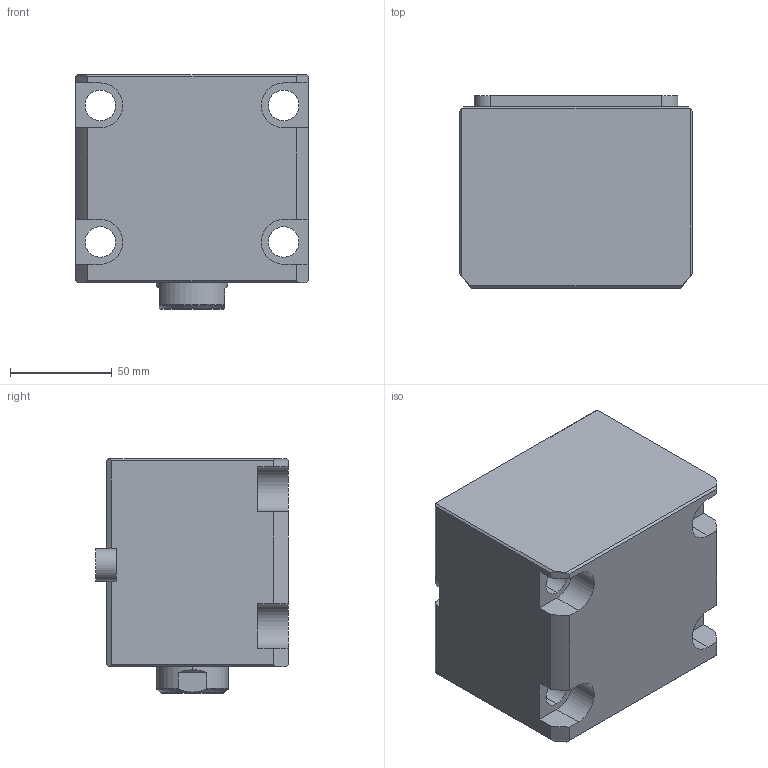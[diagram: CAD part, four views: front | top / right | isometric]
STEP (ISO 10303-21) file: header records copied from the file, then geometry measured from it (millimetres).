
FILE_DESCRIPTION (( 'STEP AP214' ), '1' );
FILE_NAME ('chtb-lam63x35n_asm.STEP', '2018-05-22T02:54:58', ( 'Windows' ), ( 'Microsoft' ), 'SwSTEP 2.0', 'SolidWorks 2015', '' );
FILE_SCHEMA (( 'AUTOMOTIVE_DESIGN' ));
Length unit declared in the file: millimetre
Products named in the file (5): CHTB-LAM63X35NBT; CHTB-LA63PJ; CHTB63X35NHSG; CHTB-63QG; chtb-lam63x35n_asm
Assembly tree (4 placements, depth 2):
  chtb-lam63x35n_asm
    CHTB-63QG
    CHTB63X35NHSG
    CHTB-LA63PJ
    CHTB-LAM63X35NBT
Bounding box: 114 x 94.5 x 115 mm (x, y, z)
Volume: 886206.2 mm3; surface area: 140437.8 mm2
Topology: 4 solids, 4 shells, 183 faces, 539 edges, 366 vertices
Faces by surface type: cylinder 99, plane 55, bspline 13, cone 8, torus 8
Entity records: 19040 total; most frequent: CARTESIAN_POINT 14352, ORIENTED_EDGE 1066, DIRECTION 788, EDGE_CURVE 533, VERTEX_POINT 366, AXIS2_PLACEMENT_3D 291, LINE 206, VECTOR 206
